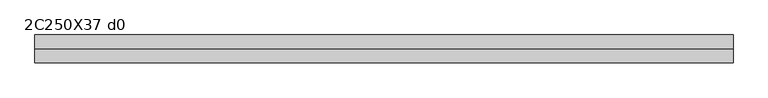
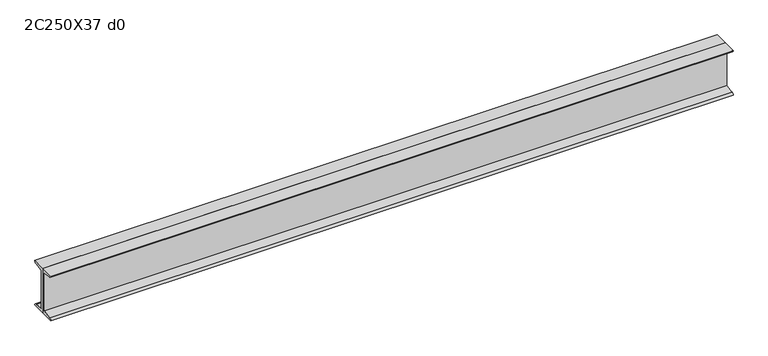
"""IFC4 building model written with IfcOpenShell, lengths in millimetres: beam geometry, Profilato a doppia C : 2C250X37 d0."""

from ifc_helpers import new_model, si_unit, point, frame, frame_2d, origin, place, context, project, spatial, polyline, circle_curve, trimmed, segment, composite_curve, outline, extrude, source, transform, mapped, element, save


def beam_2c250x37_d0_b1fd0093(model_context):
    return source(origin(), model_context, "Body", "SweptSolid", [
        extrude(outline(composite_curve([segment(polyline([(0.5, 127.0), (73.8, 127.0)]), True, "CONTINUOUS"), segment(trimmed(circle_curve(frame_2d((62.7, 127.0)), 11.1), [point((73.8, 127.0))], [point((62.7, 115.9))], False, "CARTESIAN"), True, "CONTINUOUS"), segment(polyline([(62.7, 115.9), (13.9, 108.1708393), (13.9, -108.1708393), (62.7, -115.9)]), True, "CONTINUOUS"), segment(trimmed(circle_curve(frame_2d((62.7, -127.0)), 11.1), [point((62.7, -115.9))], [point((73.8, -127.0))], False, "CARTESIAN"), True, "CONTINUOUS"), segment(polyline([(73.8, -127.0), (0.5, -127.0), (0.5, 127.0)]), True, "CONTINUOUS")], self_intersect=False)), frame((-1905.9022573, 0.0, 0.0), z_axis=(1.0, 0.0, 0.0), x_axis=(0.0, 1.0, 0.0)), (0.0, 0.0, 1.0), 3677.4022573),
        extrude(outline(composite_curve([segment(polyline([(-0.5, 127.0), (-0.5, -127.0), (-73.8, -127.0)]), True, "CONTINUOUS"), segment(trimmed(circle_curve(frame_2d((-62.7, -127.0)), 11.1), [point((-73.8, -127.0))], [point((-62.7, -115.9))], False, "CARTESIAN"), True, "CONTINUOUS"), segment(polyline([(-62.7, -115.9), (-13.9, -108.1708393), (-13.9, 108.1708393), (-62.7, 115.9)]), True, "CONTINUOUS"), segment(trimmed(circle_curve(frame_2d((-62.7, 127.0)), 11.1), [point((-62.7, 115.9))], [point((-73.8, 127.0))], False, "CARTESIAN"), True, "CONTINUOUS"), segment(polyline([(-73.8, 127.0), (-0.5, 127.0)]), True, "CONTINUOUS")], self_intersect=False)), frame((-1905.9022573, 0.0, 0.0), z_axis=(1.0, 0.0, 0.0), x_axis=(0.0, 1.0, 0.0)), (0.0, 0.0, 1.0), 3677.4022573),
    ])


if __name__ == "__main__":
    model = new_model("IFC4")
    model_context = context("Model", 3, world=origin())
    ifc_project = project(units=[si_unit("LENGTHUNIT", "METRE", prefix="MILLI")], contexts=[model_context])
    site = spatial("IfcSite", under=ifc_project)
    building = spatial("IfcBuilding", under=site)
    placement = place(None, origin())
    beam_2c250x37_d0_shape = beam_2c250x37_d0_b1fd0093(model_context)
    element("IfcBeam", 1, ObjectType="Profilato a doppia C : 2C250X37 d0", at=placement, inside=building, context=model_context, shape_type="MappedRepresentation", body=[
        mapped(beam_2c250x37_d0_shape, transform((0.0, 0.0, 0.0), x_axis=(1.0, 0.0, 0.0), y_axis=(0.0, 1.0, 0.0), z_axis=(0.0, 0.0, 1.0))),
    ])
    save(model, "model.ifc")
